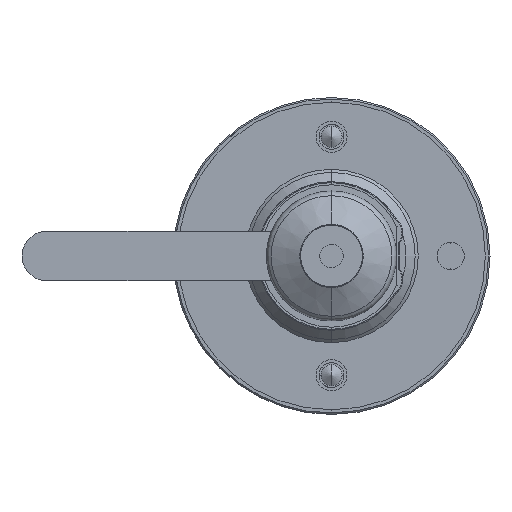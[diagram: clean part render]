
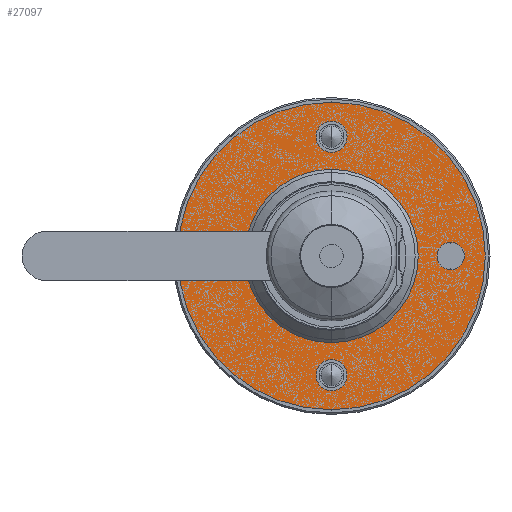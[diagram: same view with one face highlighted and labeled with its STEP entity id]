
A CAD part, front view. The second image highlights one B-rep face of the part: STEP entity #27097.
In plain terms, the highlighted planar face has unit normal (0, -1, 0) as drawn and (0, 0, -1) by its records, which use the part's own axes.
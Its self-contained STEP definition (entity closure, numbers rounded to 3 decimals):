
#228 = DIRECTION ( 'NONE',  ( 0., 0., 1. ) ) ;
#379 = DIRECTION ( 'NONE',  ( -1., 0., 0. ) ) ;
#478 = AXIS2_PLACEMENT_3D ( 'NONE', #21348, #1099, #8052 ) ;
#496 = CARTESIAN_POINT ( 'NONE',  ( -22., 0., 0. ) ) ;
#813 = DIRECTION ( 'NONE',  ( 0., 0., 1. ) ) ;
#1099 = DIRECTION ( 'NONE',  ( 0., 0., 1. ) ) ;
#1143 = VERTEX_POINT ( 'NONE', #2836 ) ;
#1163 = DIRECTION ( 'NONE',  ( -1., 0., 0. ) ) ;
#1388 = CARTESIAN_POINT ( 'NONE',  ( -4.4, 38.5, 0. ) ) ;
#1420 = CARTESIAN_POINT ( 'NONE',  ( 0., -38.5, 0. ) ) ;
#1450 = EDGE_LOOP ( 'NONE', ( #9737, #23961 ) ) ;
#1555 = CARTESIAN_POINT ( 'NONE',  ( -49.675, 0., 0. ) ) ;
#1778 = VERTEX_POINT ( 'NONE', #1388 ) ;
#2245 = VERTEX_POINT ( 'NONE', #25871 ) ;
#2273 = CARTESIAN_POINT ( 'NONE',  ( 43.5, 0., 0. ) ) ;
#2520 = AXIS2_PLACEMENT_3D ( 'NONE', #7741, #25434, #28229 ) ;
#2836 = CARTESIAN_POINT ( 'NONE',  ( -43.5, 0., 0. ) ) ;
#2964 = AXIS2_PLACEMENT_3D ( 'NONE', #1420, #5314, #15187 ) ;
#3037 = DIRECTION ( 'NONE',  ( -1., 0., 0. ) ) ;
#3394 = FACE_BOUND ( 'NONE', #19345, .T. ) ;
#3412 = DIRECTION ( 'NONE',  ( 0., 0., 1. ) ) ;
#3489 = AXIS2_PLACEMENT_3D ( 'NONE', #18542, #6565, #4355 ) ;
#3639 = ORIENTED_EDGE ( 'NONE', *, *, #11984, .T. ) ;
#3689 = ORIENTED_EDGE ( 'NONE', *, *, #5270, .T. ) ;
#3830 = PLANE ( 'NONE',  #22732 ) ;
#3857 = CIRCLE ( 'NONE', #8116, 22. ) ;
#4355 = DIRECTION ( 'NONE',  ( -1., 0., 0. ) ) ;
#4994 = EDGE_LOOP ( 'NONE', ( #3689, #20320 ) ) ;
#5076 = EDGE_CURVE ( 'NONE', #2245, #1778, #27317, .T. ) ;
#5191 = CARTESIAN_POINT ( 'NONE',  ( 22., 0., 0. ) ) ;
#5270 = EDGE_CURVE ( 'NONE', #29196, #7368, #28297, .T. ) ;
#5314 = DIRECTION ( 'NONE',  ( 0., 0., 1. ) ) ;
#5452 = FACE_BOUND ( 'NONE', #29168, .T. ) ;
#6034 = FACE_OUTER_BOUND ( 'NONE', #4994, .T. ) ;
#6565 = DIRECTION ( 'NONE',  ( 0., 0., 1. ) ) ;
#6625 = DIRECTION ( 'NONE',  ( -1., 0., 0. ) ) ;
#7368 = VERTEX_POINT ( 'NONE', #1555 ) ;
#7405 = VERTEX_POINT ( 'NONE', #19590 ) ;
#7548 = VERTEX_POINT ( 'NONE', #496 ) ;
#7741 = CARTESIAN_POINT ( 'NONE',  ( 0., 0., 0. ) ) ;
#8052 = DIRECTION ( 'NONE',  ( -1., 0., 0. ) ) ;
#8116 = AXIS2_PLACEMENT_3D ( 'NONE', #25994, #12463, #16900 ) ;
#8203 = EDGE_CURVE ( 'NONE', #21254, #7548, #3857, .T. ) ;
#8270 = CARTESIAN_POINT ( 'NONE',  ( 22., 0., 0. ) ) ;
#8905 = AXIS2_PLACEMENT_3D ( 'NONE', #16801, #813, #3037 ) ;
#9545 = CARTESIAN_POINT ( 'NONE',  ( 38.5, 0., 0. ) ) ;
#9737 = ORIENTED_EDGE ( 'NONE', *, *, #28539, .T. ) ;
#9887 = VERTEX_POINT ( 'NONE', #24214 ) ;
#9889 = DIRECTION ( 'NONE',  ( -1., 0., 0. ) ) ;
#10452 = CIRCLE ( 'NONE', #26910, 49.675 ) ;
#11055 = CIRCLE ( 'NONE', #2520, 22. ) ;
#11182 = ORIENTED_EDGE ( 'NONE', *, *, #23571, .T. ) ;
#11489 = DIRECTION ( 'NONE',  ( -1., 0., 0. ) ) ;
#11984 = EDGE_CURVE ( 'NONE', #14738, #25989, #23206, .T. ) ;
#12023 = ORIENTED_EDGE ( 'NONE', *, *, #5076, .T. ) ;
#12272 = FACE_BOUND ( 'NONE', #20966, .T. ) ;
#12303 = ORIENTED_EDGE ( 'NONE', *, *, #25444, .T. ) ;
#12424 = FACE_BOUND ( 'NONE', #1450, .T. ) ;
#12441 = DIRECTION ( 'NONE',  ( -1., 0., 0. ) ) ;
#12463 = DIRECTION ( 'NONE',  ( 0., 0., 1. ) ) ;
#12486 = VERTEX_POINT ( 'NONE', #22545 ) ;
#13671 = DIRECTION ( 'NONE',  ( 0., 0., 1. ) ) ;
#13897 = DIRECTION ( 'NONE',  ( 0., 0., -1. ) ) ;
#14349 = CARTESIAN_POINT ( 'NONE',  ( 33.5, 0., 0. ) ) ;
#14634 = CARTESIAN_POINT ( 'NONE',  ( 0., 0., 0. ) ) ;
#14723 = EDGE_CURVE ( 'NONE', #1778, #2245, #25164, .T. ) ;
#14738 = VERTEX_POINT ( 'NONE', #2273 ) ;
#15048 = EDGE_CURVE ( 'NONE', #7548, #21254, #11055, .T. ) ;
#15187 = DIRECTION ( 'NONE',  ( -1., 0., 0. ) ) ;
#15691 = AXIS2_PLACEMENT_3D ( 'NONE', #9545, #228, #11489 ) ;
#15727 = CIRCLE ( 'NONE', #2964, 4.4 ) ;
#16801 = CARTESIAN_POINT ( 'NONE',  ( 0., -38.5, 0. ) ) ;
#16900 = DIRECTION ( 'NONE',  ( 1., 0., 0. ) ) ;
#17156 = AXIS2_PLACEMENT_3D ( 'NONE', #20875, #13671, #27192 ) ;
#18013 = AXIS2_PLACEMENT_3D ( 'NONE', #22980, #27099, #379 ) ;
#18144 = ORIENTED_EDGE ( 'NONE', *, *, #14723, .T. ) ;
#18542 = CARTESIAN_POINT ( 'NONE',  ( 0., 38.5, 0. ) ) ;
#18800 = EDGE_CURVE ( 'NONE', #9887, #1143, #21514, .T. ) ;
#18970 = ORIENTED_EDGE ( 'NONE', *, *, #15048, .T. ) ;
#19282 = CARTESIAN_POINT ( 'NONE',  ( 49.675, 0., 0. ) ) ;
#19345 = EDGE_LOOP ( 'NONE', ( #12303, #3639 ) ) ;
#19590 = CARTESIAN_POINT ( 'NONE',  ( 4.4, -38.5, 0. ) ) ;
#20300 = AXIS2_PLACEMENT_3D ( 'NONE', #20521, #13897, #6625 ) ;
#20320 = ORIENTED_EDGE ( 'NONE', *, *, #24790, .T. ) ;
#20521 = CARTESIAN_POINT ( 'NONE',  ( 0., 0., 0. ) ) ;
#20566 = DIRECTION ( 'NONE',  ( 0., 0., -1. ) ) ;
#20875 = CARTESIAN_POINT ( 'NONE',  ( -38.5, 0., 0. ) ) ;
#20966 = EDGE_LOOP ( 'NONE', ( #22922, #18970 ) ) ;
#21254 = VERTEX_POINT ( 'NONE', #5191 ) ;
#21348 = CARTESIAN_POINT ( 'NONE',  ( 0., 38.5, 0. ) ) ;
#21414 = DIRECTION ( 'NONE',  ( 0., 0., -1. ) ) ;
#21514 = CIRCLE ( 'NONE', #22453, 5. ) ;
#21998 = EDGE_LOOP ( 'NONE', ( #18144, #12023 ) ) ;
#22453 = AXIS2_PLACEMENT_3D ( 'NONE', #23627, #3412, #12441 ) ;
#22545 = CARTESIAN_POINT ( 'NONE',  ( -4.4, -38.5, 0. ) ) ;
#22732 = AXIS2_PLACEMENT_3D ( 'NONE', #8270, #21414, #1163 ) ;
#22922 = ORIENTED_EDGE ( 'NONE', *, *, #8203, .T. ) ;
#22980 = CARTESIAN_POINT ( 'NONE',  ( 38.5, 0., 0. ) ) ;
#23206 = CIRCLE ( 'NONE', #15691, 5. ) ;
#23571 = EDGE_CURVE ( 'NONE', #12486, #7405, #24457, .T. ) ;
#23627 = CARTESIAN_POINT ( 'NONE',  ( -38.5, 0., 0. ) ) ;
#23961 = ORIENTED_EDGE ( 'NONE', *, *, #18800, .T. ) ;
#24214 = CARTESIAN_POINT ( 'NONE',  ( -33.5, 0., 0. ) ) ;
#24457 = CIRCLE ( 'NONE', #8905, 4.4 ) ;
#24790 = EDGE_CURVE ( 'NONE', #7368, #29196, #10452, .T. ) ;
#25070 = CIRCLE ( 'NONE', #18013, 5. ) ;
#25164 = CIRCLE ( 'NONE', #3489, 4.4 ) ;
#25434 = DIRECTION ( 'NONE',  ( 0., 0., 1. ) ) ;
#25444 = EDGE_CURVE ( 'NONE', #25989, #14738, #25070, .T. ) ;
#25871 = CARTESIAN_POINT ( 'NONE',  ( 4.4, 38.5, 0. ) ) ;
#25989 = VERTEX_POINT ( 'NONE', #14349 ) ;
#25994 = CARTESIAN_POINT ( 'NONE',  ( 0., 0., 0. ) ) ;
#26244 = FACE_BOUND ( 'NONE', #21998, .T. ) ;
#26712 = ORIENTED_EDGE ( 'NONE', *, *, #28809, .T. ) ;
#26910 = AXIS2_PLACEMENT_3D ( 'NONE', #14634, #20566, #9889 ) ;
#27097 = ADVANCED_FACE ( 'NONE', ( #6034, #5452, #26244, #3394, #12424, #12272 ), #3830, .T. ) ;
#27099 = DIRECTION ( 'NONE',  ( 0., 0., 1. ) ) ;
#27192 = DIRECTION ( 'NONE',  ( -1., 0., 0. ) ) ;
#27317 = CIRCLE ( 'NONE', #478, 4.4 ) ;
#28229 = DIRECTION ( 'NONE',  ( 1., 0., 0. ) ) ;
#28297 = CIRCLE ( 'NONE', #20300, 49.675 ) ;
#28539 = EDGE_CURVE ( 'NONE', #1143, #9887, #28917, .T. ) ;
#28809 = EDGE_CURVE ( 'NONE', #7405, #12486, #15727, .T. ) ;
#28917 = CIRCLE ( 'NONE', #17156, 5. ) ;
#29168 = EDGE_LOOP ( 'NONE', ( #11182, #26712 ) ) ;
#29196 = VERTEX_POINT ( 'NONE', #19282 ) ;
